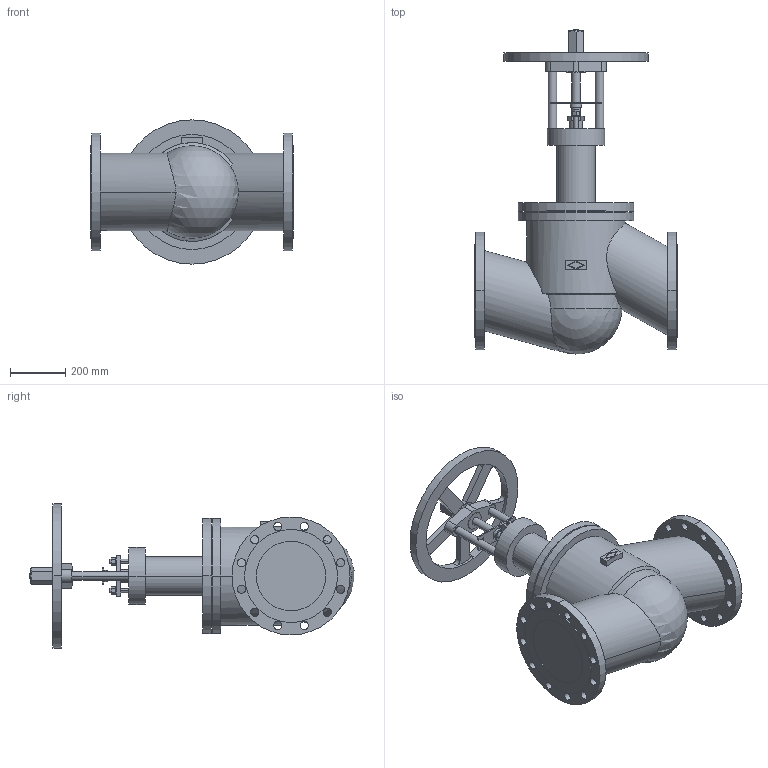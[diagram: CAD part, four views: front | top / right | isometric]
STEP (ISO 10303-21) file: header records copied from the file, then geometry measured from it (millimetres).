
FILE_DESCRIPTION(('Creo Elements/Direct Modeling STEP Export'),'2;1');
FILE_NAME('c000005005.stp','2012-09-19T11:59:51',(''),(''),'Creo Elements/Direct Modeling STEP processor for AP203 (Solid Model)','Creo Elements/Direct Modeling 17.0D 15-Jul-2011 (C) Parametric Technology GmbH','');
FILE_SCHEMA(('CONFIG_CONTROL_DESIGN'));
Length unit declared in the file: millimetre
Products named in the file (1): 1
Bounding box: 730 x 1168.23 x 520 mm (x, y, z)
Volume: 91262995.7 mm3; surface area: 2369338.6 mm2
Topology: 1 solids, 1 shells, 267 faces, 712 edges, 472 vertices
Faces by surface type: cylinder 144, plane 118, cone 4, sphere 1
Entity records: 8405 total; most frequent: CARTESIAN_POINT 1741, ORIENTED_EDGE 1420, DIRECTION 1302, EDGE_CURVE 710, VERTEX_POINT 472, AXIS2_PLACEMENT_3D 468, VECTOR 366, LINE 366
